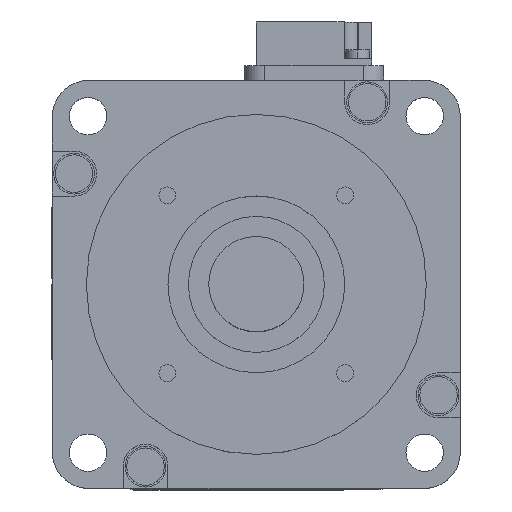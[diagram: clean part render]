
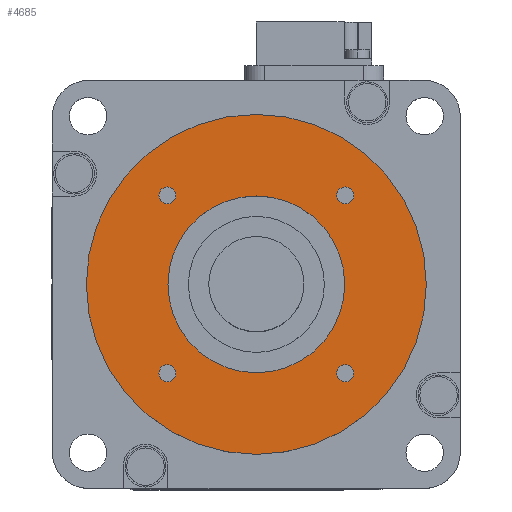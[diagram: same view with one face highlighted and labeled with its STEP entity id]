
A CAD part, top view. The second image highlights one B-rep face of the part: STEP entity #4685.
In plain terms, the highlighted planar face has unit normal (0, 0, 1).
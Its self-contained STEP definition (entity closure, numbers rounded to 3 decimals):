
#2702 = EDGE_CURVE ( 'NONE', #2706, #2703, #9914, .T. ) ;
#2703 = VERTEX_POINT ( 'NONE', #9972 ) ;
#2706 = VERTEX_POINT ( 'NONE', #9969 ) ;
#2708 = EDGE_CURVE ( 'NONE', #2719, #2709, #9963, .T. ) ;
#2709 = VERTEX_POINT ( 'NONE', #9958 ) ;
#2719 = VERTEX_POINT ( 'NONE', #9945 ) ;
#2891 = VERTEX_POINT ( 'NONE', #10300 ) ;
#2893 = EDGE_CURVE ( 'NONE', #2891, #2894, #10299, .T. ) ;
#2894 = VERTEX_POINT ( 'NONE', #10294 ) ;
#2975 = VERTEX_POINT ( 'NONE', #10458 ) ;
#2977 = EDGE_CURVE ( 'NONE', #2975, #2978, #10457, .T. ) ;
#2978 = VERTEX_POINT ( 'NONE', #10452 ) ;
#3082 = EDGE_CURVE ( 'NONE', #3083, #3130, #10706, .T. ) ;
#3083 = VERTEX_POINT ( 'NONE', #10701 ) ;
#3095 = EDGE_CURVE ( 'NONE', #3096, #3097, #10677, .T. ) ;
#3096 = VERTEX_POINT ( 'NONE', #10737 ) ;
#3097 = VERTEX_POINT ( 'NONE', #10736 ) ;
#3130 = VERTEX_POINT ( 'NONE', #10794 ) ;
#4616 = ORIENTED_EDGE ( 'NONE', *, *, #2708, .F. ) ;
#4617 = EDGE_LOOP ( 'NONE', ( #4618, #4670 ) ) ;
#4618 = ORIENTED_EDGE ( 'NONE', *, *, #4619, .F. ) ;
#4619 = EDGE_CURVE ( 'NONE', #2894, #2891, #13500, .T. ) ;
#4620 = EDGE_LOOP ( 'NONE', ( #4671, #4673 ) ) ;
#4670 = ORIENTED_EDGE ( 'NONE', *, *, #2893, .F. ) ;
#4671 = ORIENTED_EDGE ( 'NONE', *, *, #4672, .F. ) ;
#4672 = EDGE_CURVE ( 'NONE', #2978, #2975, #13546, .T. ) ;
#4673 = ORIENTED_EDGE ( 'NONE', *, *, #2977, .F. ) ;
#4674 = EDGE_LOOP ( 'NONE', ( #4675, #4677 ) ) ;
#4675 = ORIENTED_EDGE ( 'NONE', *, *, #4676, .T. ) ;
#4676 = EDGE_CURVE ( 'NONE', #3097, #3096, #13609, .T. ) ;
#4677 = ORIENTED_EDGE ( 'NONE', *, *, #3095, .T. ) ;
#4678 = EDGE_LOOP ( 'NONE', ( #4679, #4680 ) ) ;
#4679 = ORIENTED_EDGE ( 'NONE', *, *, #3082, .F. ) ;
#4680 = ORIENTED_EDGE ( 'NONE', *, *, #4681, .F. ) ;
#4681 = EDGE_CURVE ( 'NONE', #3130, #3083, #13605, .T. ) ;
#4685 = ADVANCED_FACE ( 'NONE', ( #13598, #13593, #13592, #13591, #13590, #13589 ), #13588, .T. ) ;
#4686 = EDGE_LOOP ( 'NONE', ( #4687, #4689 ) ) ;
#4687 = ORIENTED_EDGE ( 'NONE', *, *, #4688, .F. ) ;
#4688 = EDGE_CURVE ( 'NONE', #2703, #2706, #13583, .T. ) ;
#4689 = ORIENTED_EDGE ( 'NONE', *, *, #2702, .F. ) ;
#4690 = EDGE_LOOP ( 'NONE', ( #4691, #4616 ) ) ;
#4691 = ORIENTED_EDGE ( 'NONE', *, *, #4692, .F. ) ;
#4692 = EDGE_CURVE ( 'NONE', #2709, #2719, #13577, .T. ) ;
#9911 = DIRECTION ( 'NONE',  ( 0., 0., 1. ) ) ;
#9912 = CARTESIAN_POINT ( 'NONE',  ( 13.081, -13.081, 3. ) ) ;
#9913 = AXIS2_PLACEMENT_3D ( 'NONE', #9912, #9911, #9973 ) ;
#9914 = CIRCLE ( 'NONE', #9913, 1.25 ) ;
#9945 = CARTESIAN_POINT ( 'NONE',  ( -14.331, -13.081, 3. ) ) ;
#9958 = CARTESIAN_POINT ( 'NONE',  ( -11.831, -13.081, 3. ) ) ;
#9959 = DIRECTION ( 'NONE',  ( -1., 0., 0. ) ) ;
#9960 = DIRECTION ( 'NONE',  ( 0., 0., 1. ) ) ;
#9961 = CARTESIAN_POINT ( 'NONE',  ( -13.081, -13.081, 3. ) ) ;
#9962 = AXIS2_PLACEMENT_3D ( 'NONE', #9961, #9960, #9959 ) ;
#9963 = CIRCLE ( 'NONE', #9962, 1.25 ) ;
#9969 = CARTESIAN_POINT ( 'NONE',  ( 11.831, -13.081, 3. ) ) ;
#9972 = CARTESIAN_POINT ( 'NONE',  ( 14.331, -13.081, 3. ) ) ;
#9973 = DIRECTION ( 'NONE',  ( 0., -1., 0. ) ) ;
#10294 = CARTESIAN_POINT ( 'NONE',  ( -11.831, 13.081, 3. ) ) ;
#10295 = DIRECTION ( 'NONE',  ( 0., 1., 0. ) ) ;
#10296 = DIRECTION ( 'NONE',  ( 0., 0., 1. ) ) ;
#10297 = CARTESIAN_POINT ( 'NONE',  ( -13.081, 13.081, 3. ) ) ;
#10298 = AXIS2_PLACEMENT_3D ( 'NONE', #10297, #10296, #10295 ) ;
#10299 = CIRCLE ( 'NONE', #10298, 1.25 ) ;
#10300 = CARTESIAN_POINT ( 'NONE',  ( -14.331, 13.081, 3. ) ) ;
#10452 = CARTESIAN_POINT ( 'NONE',  ( 14.331, 13.081, 3. ) ) ;
#10453 = DIRECTION ( 'NONE',  ( 1., 0., 0. ) ) ;
#10454 = DIRECTION ( 'NONE',  ( 0., 0., 1. ) ) ;
#10455 = CARTESIAN_POINT ( 'NONE',  ( 13.081, 13.081, 3. ) ) ;
#10456 = AXIS2_PLACEMENT_3D ( 'NONE', #10455, #10454, #10453 ) ;
#10457 = CIRCLE ( 'NONE', #10456, 1.25 ) ;
#10458 = CARTESIAN_POINT ( 'NONE',  ( 11.831, 13.081, 3. ) ) ;
#10677 = CIRCLE ( 'NONE', #10740, 13. ) ;
#10683 = CARTESIAN_POINT ( 'NONE',  ( 0., 0., 3. ) ) ;
#10701 = CARTESIAN_POINT ( 'NONE',  ( -25., 0., 3. ) ) ;
#10702 = DIRECTION ( 'NONE',  ( -1., 0., 0. ) ) ;
#10703 = DIRECTION ( 'NONE',  ( 0., 0., -1. ) ) ;
#10704 = CARTESIAN_POINT ( 'NONE',  ( 0., 0., 3. ) ) ;
#10705 = AXIS2_PLACEMENT_3D ( 'NONE', #10704, #10703, #10702 ) ;
#10706 = CIRCLE ( 'NONE', #10705, 25. ) ;
#10736 = CARTESIAN_POINT ( 'NONE',  ( -13., 0., 3. ) ) ;
#10737 = CARTESIAN_POINT ( 'NONE',  ( 13., 0., 3. ) ) ;
#10738 = DIRECTION ( 'NONE',  ( -1., 0., 0. ) ) ;
#10739 = DIRECTION ( 'NONE',  ( 0., 0., -1. ) ) ;
#10740 = AXIS2_PLACEMENT_3D ( 'NONE', #10683, #10739, #10738 ) ;
#10794 = CARTESIAN_POINT ( 'NONE',  ( 25., 0., 3. ) ) ;
#13496 = DIRECTION ( 'NONE',  ( 0., 1., 0. ) ) ;
#13497 = DIRECTION ( 'NONE',  ( 0., 0., 1. ) ) ;
#13498 = CARTESIAN_POINT ( 'NONE',  ( -13.081, 13.081, 3. ) ) ;
#13499 = AXIS2_PLACEMENT_3D ( 'NONE', #13498, #13497, #13496 ) ;
#13500 = CIRCLE ( 'NONE', #13499, 1.25 ) ;
#13541 = CARTESIAN_POINT ( 'NONE',  ( 0., 0., 3. ) ) ;
#13542 = DIRECTION ( 'NONE',  ( 1., 0., 0. ) ) ;
#13543 = DIRECTION ( 'NONE',  ( 0., 0., 1. ) ) ;
#13544 = CARTESIAN_POINT ( 'NONE',  ( 13.081, 13.081, 3. ) ) ;
#13545 = AXIS2_PLACEMENT_3D ( 'NONE', #13544, #13543, #13542 ) ;
#13546 = CIRCLE ( 'NONE', #13545, 1.25 ) ;
#13573 = DIRECTION ( 'NONE',  ( -1., 0., 0. ) ) ;
#13574 = DIRECTION ( 'NONE',  ( 0., 0., 1. ) ) ;
#13575 = CARTESIAN_POINT ( 'NONE',  ( -13.081, -13.081, 3. ) ) ;
#13576 = AXIS2_PLACEMENT_3D ( 'NONE', #13575, #13574, #13573 ) ;
#13577 = CIRCLE ( 'NONE', #13576, 1.25 ) ;
#13579 = DIRECTION ( 'NONE',  ( 0., -1., 0. ) ) ;
#13580 = DIRECTION ( 'NONE',  ( 0., 0., 1. ) ) ;
#13581 = CARTESIAN_POINT ( 'NONE',  ( 13.081, -13.081, 3. ) ) ;
#13582 = AXIS2_PLACEMENT_3D ( 'NONE', #13581, #13580, #13579 ) ;
#13583 = CIRCLE ( 'NONE', #13582, 1.25 ) ;
#13584 = DIRECTION ( 'NONE',  ( 1., 0., 0. ) ) ;
#13585 = DIRECTION ( 'NONE',  ( 0., 0., 1. ) ) ;
#13586 = CARTESIAN_POINT ( 'NONE',  ( 0., 25., 3. ) ) ;
#13587 = AXIS2_PLACEMENT_3D ( 'NONE', #13586, #13585, #13584 ) ;
#13588 = PLANE ( 'NONE',  #13587 ) ;
#13589 = FACE_OUTER_BOUND ( 'NONE', #4678, .T. ) ;
#13590 = FACE_BOUND ( 'NONE', #4674, .T. ) ;
#13591 = FACE_BOUND ( 'NONE', #4620, .T. ) ;
#13592 = FACE_BOUND ( 'NONE', #4617, .T. ) ;
#13593 = FACE_BOUND ( 'NONE', #4690, .T. ) ;
#13598 = FACE_BOUND ( 'NONE', #4686, .T. ) ;
#13601 = DIRECTION ( 'NONE',  ( -1., 0., 0. ) ) ;
#13602 = DIRECTION ( 'NONE',  ( 0., 0., -1. ) ) ;
#13603 = CARTESIAN_POINT ( 'NONE',  ( 0., 0., 3. ) ) ;
#13604 = AXIS2_PLACEMENT_3D ( 'NONE', #13603, #13602, #13601 ) ;
#13605 = CIRCLE ( 'NONE', #13604, 25. ) ;
#13606 = DIRECTION ( 'NONE',  ( -1., 0., 0. ) ) ;
#13607 = DIRECTION ( 'NONE',  ( 0., 0., -1. ) ) ;
#13608 = AXIS2_PLACEMENT_3D ( 'NONE', #13541, #13607, #13606 ) ;
#13609 = CIRCLE ( 'NONE', #13608, 13. ) ;
